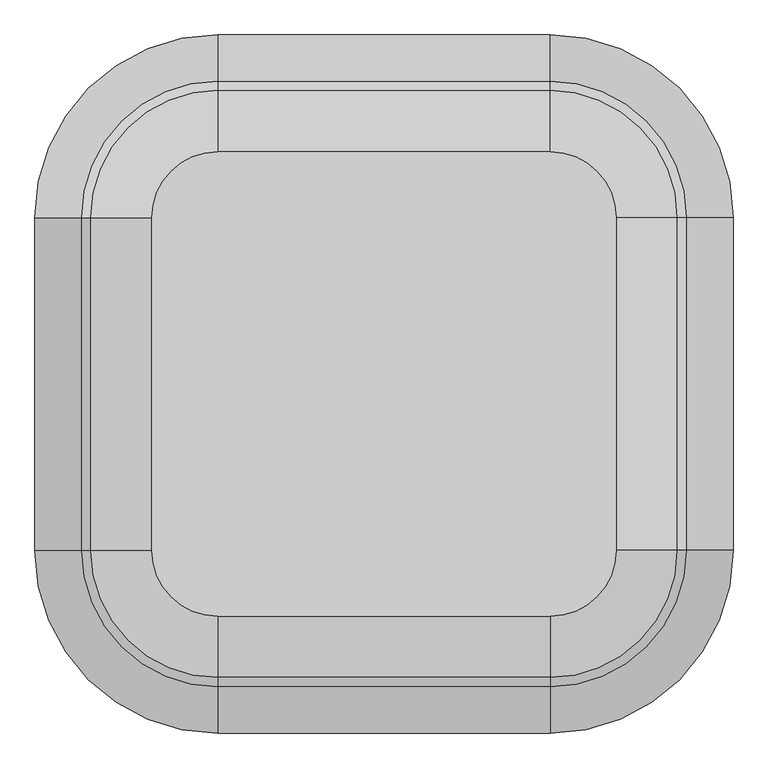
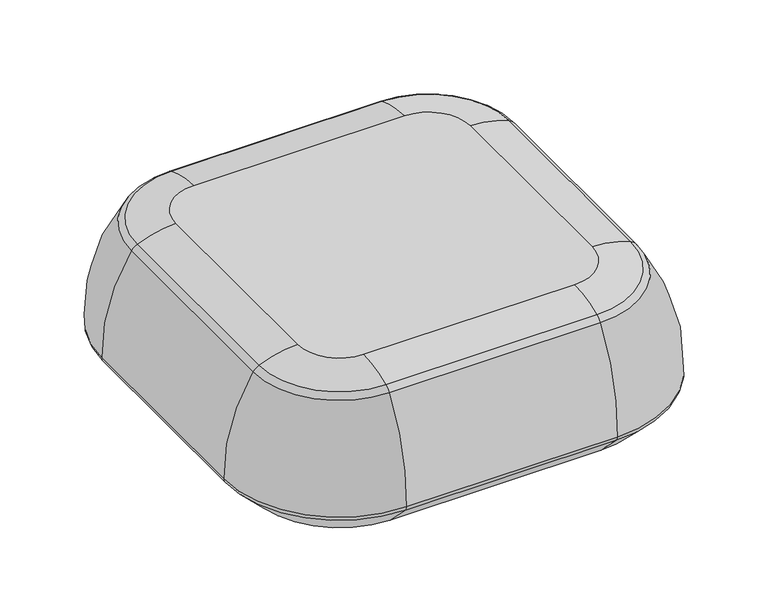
"""IFC4 building model written with IfcOpenShell, lengths in millimetres: furniture geometry, Pouf_Bensen_IlePouf_ILE003 : Pouf_Bensen_IlePouf_ILE003."""

from ifc_helpers import new_model, si_unit, point, frame, origin, place, context, project, spatial, polyline, circle_curve, ellipse_curve, trimmed, source, transform, mapped, element, save
from ifc_brep_helpers import plane_surface, cylinder_surface, revolved_surface, advanced_brep


def furniture_e9a74ccd(model_context):
    return source(origin(), model_context, "Body", "AdvancedBrep", [
        advanced_brep(
        [(-300.5148586, 419.2728272, 420.0), (-419.2660859, 300.5215999, 420.0), (-419.2660859, -300.5215999, 420.0), (-300.5148586, -419.2728272, 420.0), (300.5148586, -419.2728272, 420.0), (419.2660859, -300.5215999, 420.0), (419.2660859, 300.5215999, 420.0), (300.5148587, 419.2728272, 420.0), (-549.1319828, 300.5215999, 0.0), (-300.5148586, 549.138724, 0.0), (300.5148586, 549.138724, 0.0), (549.1319828, 300.5215999, 0.0), (549.1319828, -300.5215999, 0.0), (300.5148586, -549.138724, 0.0), (-300.5148586, -549.138724, 0.0), (-549.1319828, -300.5215999, 0.0), (-624.6680294, 300.5215999, 75.5360466), (-300.5148586, 624.6747707, 75.5360466), (-630.5148586, 300.5215999, 89.0138906), (-300.5148586, 630.5215999, 89.0138906), (-546.881553, 300.5215999, 381.8574548), (-300.5148586, 546.8882943, 381.8574548), (-530.1443543, 300.5215999, 396.0506005), (-300.5148586, 530.1510956, 396.0506005), (-624.6680294, -300.5215999, 75.5360466), (-630.5148586, -300.5215999, 89.0138906), (-546.881553, -300.5215999, 381.8574548), (-530.1443543, -300.5215999, 396.0506005), (-300.5148586, -624.6747707, 75.5360466), (-300.5148586, -630.5215999, 89.0138906), (-300.5148586, -546.8882943, 381.8574548), (-300.5148586, -530.1510956, 396.0506005), (300.5148586, -624.6747707, 75.5360466), (300.5148586, -630.5215999, 89.0138906), (300.5148586, -546.8882943, 381.8574548), (300.5148586, -530.1510956, 396.0506005), (624.6680294, -300.5215999, 75.5360466), (630.5148586, -300.5215999, 89.0138906), (546.881553, -300.5215999, 381.8574548), (530.1443543, -300.5215999, 396.0506005), (624.6680294, 300.5215999, 75.5360466), (630.5148586, 300.5215999, 89.0138906), (546.881553, 300.5215999, 381.8574548), (530.1443543, 300.5215999, 396.0506005), (300.5148586, 624.6747707, 75.5360466), (300.5148586, 630.5215999, 89.0138906), (300.5148586, 546.8882943, 381.8574548), (300.5148586, 530.1510956, 396.0506005)],
        [
            (0, 1, circle_curve(frame((-300.5148586, 300.5215999, 420.0), z_axis=(0.0, 0.0, 1.0), x_axis=(0.0, 1.0, 0.0)), 118.7512273)),
            (1, 2),
            (2, 3, circle_curve(frame((-300.5148586, -300.5215999, 420.0), z_axis=(0.0, 0.0, 1.0), x_axis=(-1.0, 0.0, 0.0)), 118.7512273)),
            (3, 4),
            (4, 5, circle_curve(frame((300.5148586, -300.5215999, 420.0), z_axis=(0.0, 0.0, 1.0), x_axis=(0.0, -1.0, 0.0)), 118.7512273)),
            (5, 6),
            (6, 7, circle_curve(frame((300.5148586, 300.5215999, 420.0), z_axis=(0.0, 0.0, 1.0), x_axis=(1.0, 0.0, 0.0)), 118.7512273)),
            (7, 0),
            (8, 9, circle_curve(frame((-300.5148586, 300.5215999, 0.0), z_axis=(0.0, 0.0, -1.0), x_axis=(0.0, 1.0, 0.0)), 248.6171241)),
            (9, 10),
            (10, 11, circle_curve(frame((300.5148586, 300.5215999, 0.0), z_axis=(0.0, 0.0, -1.0), x_axis=(1.0, 0.0, 0.0)), 248.6171241)),
            (11, 12),
            (12, 13, circle_curve(frame((300.5148586, -300.5215999, 0.0), z_axis=(0.0, 0.0, -1.0), x_axis=(0.0, -1.0, 0.0)), 248.6171241)),
            (13, 14),
            (14, 15, circle_curve(frame((-300.5148586, -300.5215999, 0.0), z_axis=(0.0, 0.0, -1.0), x_axis=(-1.0, 0.0, 0.0)), 248.6171241)),
            (15, 8),
            (16, 17, circle_curve(frame((-300.5148586, 300.5215999, 75.5360466), z_axis=(0.0, 0.0, -1.0), x_axis=(0.0, 1.0, 0.0)), 324.1531708)),
            (17, 9),
            (8, 16),
            (16, 18, circle_curve(frame((-610.5258938, 300.5215999, 89.6781823), z_axis=(0.0, 1.0, 0.0), x_axis=(1.0, 0.0, 0.0)), 20.0)),
            (18, 19, circle_curve(frame((-300.5148586, 300.5215999, 89.0138906), z_axis=(0.0, 0.0, -1.0), x_axis=(0.0, 1.0, 0.0)), 330.0)),
            (19, 17, circle_curve(frame((-300.5148586, 610.532635, 89.6781823), z_axis=(-1.0, 0.0, 0.0), x_axis=(0.0, -1.0, 0.0)), 20.0)),
            (18, 20, circle_curve(frame((-133.8001713, 300.5215999, 105.5211689), z_axis=(0.0, 1.0, 0.0), x_axis=(1.0, 0.0, 0.0)), 496.9889042)),
            (20, 21, circle_curve(frame((-300.5148586, 300.5215999, 381.8574548), z_axis=(0.0, 0.0, -1.0), x_axis=(0.0, 1.0, 0.0)), 246.3666944)),
            (21, 19, circle_curve(frame((-300.5148586, 133.8069126, 105.5211689), z_axis=(-1.0, 0.0, 0.0), x_axis=(0.0, -1.0, 0.0)), 496.9889042)),
            (20, 22, circle_curve(frame((-513.6348243, 300.5215999, 359.6166134), z_axis=(0.0, 1.0, 0.0), x_axis=(1.0, 0.0, 0.0)), 40.0)),
            (22, 23, circle_curve(frame((-300.5148586, 300.5215999, 396.0506005), z_axis=(0.0, 0.0, -1.0), x_axis=(0.0, 1.0, 0.0)), 229.6294956)),
            (23, 21, circle_curve(frame((-300.5148586, 513.6415656, 359.6166134), z_axis=(-1.0, 0.0, 0.0), x_axis=(0.0, -1.0, 0.0)), 40.0)),
            (22, 1, circle_curve(frame((-419.2660859, 300.5215999, 151.3593575), z_axis=(0.0, 1.0, 0.0), x_axis=(1.0, 0.0, 0.0)), 268.6406425)),
            (0, 23, circle_curve(frame((-300.5148586, 419.2728272, 151.3593575), z_axis=(-1.0, 0.0, 0.0), x_axis=(0.0, -1.0, 0.0)), 268.6406425)),
            (15, 24),
            (24, 16),
            (24, 25, circle_curve(frame((-610.5258938, -300.5215999, 89.6781823), z_axis=(0.0, 1.0, 0.0), x_axis=(1.0, 0.0, 0.0)), 20.0)),
            (25, 18),
            (25, 26, circle_curve(frame((-133.8001713, -300.5215999, 105.5211689), z_axis=(0.0, 1.0, 0.0), x_axis=(1.0, 0.0, 0.0)), 496.9889042)),
            (26, 20),
            (26, 27, circle_curve(frame((-513.6348243, -300.5215999, 359.6166134), z_axis=(0.0, 1.0, 0.0), x_axis=(1.0, 0.0, 0.0)), 40.0)),
            (27, 22),
            (27, 2, circle_curve(frame((-419.2660859, -300.5215999, 151.3593575), z_axis=(0.0, 1.0, 0.0), x_axis=(1.0, 0.0, 0.0)), 268.6406425)),
            (14, 28),
            (28, 24, circle_curve(frame((-300.5148586, -300.5215999, 75.5360466), z_axis=(0.0, 0.0, -1.0), x_axis=(-1.0, 0.0, 0.0)), 324.1531708)),
            (28, 29, circle_curve(frame((-300.5148586, -610.532635, 89.6781823), z_axis=(-1.0, 0.0, 0.0), x_axis=(0.0, 1.0, 0.0)), 20.0)),
            (29, 25, circle_curve(frame((-300.5148586, -300.5215999, 89.0138906), z_axis=(0.0, 0.0, -1.0), x_axis=(-1.0, 0.0, 0.0)), 330.0)),
            (29, 30, circle_curve(frame((-300.5148586, -133.8069126, 105.5211689), z_axis=(-1.0, 0.0, 0.0), x_axis=(0.0, 1.0, 0.0)), 496.9889042)),
            (30, 26, circle_curve(frame((-300.5148586, -300.5215999, 381.8574548), z_axis=(0.0, 0.0, -1.0), x_axis=(-1.0, 0.0, 0.0)), 246.3666944)),
            (30, 31, circle_curve(frame((-300.5148586, -513.6415656, 359.6166134), z_axis=(-1.0, 0.0, 0.0), x_axis=(0.0, 1.0, 0.0)), 40.0)),
            (31, 27, circle_curve(frame((-300.5148586, -300.5215999, 396.0506005), z_axis=(0.0, 0.0, -1.0), x_axis=(-1.0, 0.0, 0.0)), 229.6294956)),
            (31, 3, circle_curve(frame((-300.5148586, -419.2728272, 151.3593575), z_axis=(-1.0, 0.0, 0.0), x_axis=(0.0, 1.0, 0.0)), 268.6406425)),
            (13, 32),
            (32, 28),
            (32, 33, circle_curve(frame((300.5148586, -610.532635, 89.6781823), z_axis=(-1.0, 0.0, 0.0), x_axis=(0.0, 1.0, 0.0)), 20.0)),
            (33, 29),
            (33, 34, circle_curve(frame((300.5148586, -133.8069126, 105.5211689), z_axis=(-1.0, 0.0, 0.0), x_axis=(0.0, 1.0, 0.0)), 496.9889042)),
            (34, 30),
            (34, 35, circle_curve(frame((300.5148586, -513.6415656, 359.6166134), z_axis=(-1.0, 0.0, 0.0), x_axis=(0.0, 1.0, 0.0)), 40.0)),
            (35, 31),
            (35, 4, circle_curve(frame((300.5148586, -419.2728272, 151.3593575), z_axis=(-1.0, 0.0, 0.0), x_axis=(0.0, 1.0, 0.0)), 268.6406425)),
            (12, 36),
            (36, 32, circle_curve(frame((300.5148586, -300.5215999, 75.5360466), z_axis=(0.0, 0.0, -1.0), x_axis=(0.0, -1.0, 0.0)), 324.1531708)),
            (36, 37, circle_curve(frame((610.5258938, -300.5215999, 89.6781823), z_axis=(0.0, -1.0, 0.0), x_axis=(-1.0, 0.0, 0.0)), 20.0)),
            (37, 33, circle_curve(frame((300.5148586, -300.5215999, 89.0138906), z_axis=(0.0, 0.0, -1.0), x_axis=(0.0, -1.0, 0.0)), 330.0)),
            (37, 38, circle_curve(frame((133.8001713, -300.5215999, 105.5211689), z_axis=(0.0, -1.0, 0.0), x_axis=(-1.0, 0.0, 0.0)), 496.9889042)),
            (38, 34, circle_curve(frame((300.5148586, -300.5215999, 381.8574548), z_axis=(0.0, 0.0, -1.0), x_axis=(0.0, -1.0, 0.0)), 246.3666944)),
            (38, 39, circle_curve(frame((513.6348243, -300.5215999, 359.6166134), z_axis=(0.0, -1.0, 0.0), x_axis=(-1.0, 0.0, 0.0)), 40.0)),
            (39, 35, circle_curve(frame((300.5148586, -300.5215999, 396.0506005), z_axis=(0.0, 0.0, -1.0), x_axis=(0.0, -1.0, 0.0)), 229.6294956)),
            (39, 5, circle_curve(frame((419.2660859, -300.5215999, 151.3593575), z_axis=(0.0, -1.0, 0.0), x_axis=(-1.0, 0.0, 0.0)), 268.6406425)),
            (11, 40),
            (40, 36),
            (40, 41, circle_curve(frame((610.5258938, 300.5215999, 89.6781823), z_axis=(0.0, -1.0, 0.0), x_axis=(-1.0, 0.0, 0.0)), 20.0)),
            (41, 37),
            (41, 42, circle_curve(frame((133.8001713, 300.5215999, 105.5211689), z_axis=(0.0, -1.0, 0.0), x_axis=(-1.0, 0.0, 0.0)), 496.9889042)),
            (42, 38),
            (42, 43, circle_curve(frame((513.6348243, 300.5215999, 359.6166134), z_axis=(0.0, -1.0, 0.0), x_axis=(-1.0, 0.0, 0.0)), 40.0)),
            (43, 39),
            (43, 6, circle_curve(frame((419.2660859, 300.5215999, 151.3593575), z_axis=(0.0, -1.0, 0.0), x_axis=(-1.0, 0.0, 0.0)), 268.6406425)),
            (10, 44),
            (44, 40, circle_curve(frame((300.5148586, 300.5215999, 75.5360466), z_axis=(0.0, 0.0, -1.0), x_axis=(1.0, 0.0, 0.0)), 324.1531708)),
            (44, 45, circle_curve(frame((300.5148586, 610.532635, 89.6781823), z_axis=(1.0, 0.0, 0.0), x_axis=(0.0, -1.0, 0.0)), 20.0)),
            (45, 41, circle_curve(frame((300.5148586, 300.5215999, 89.0138906), z_axis=(0.0, 0.0, -1.0), x_axis=(1.0, 0.0, 0.0)), 330.0)),
            (45, 46, circle_curve(frame((300.5148586, 133.8069126, 105.5211689), z_axis=(1.0, 0.0, 0.0), x_axis=(0.0, -1.0, 0.0)), 496.9889042)),
            (46, 42, circle_curve(frame((300.5148586, 300.5215999, 381.8574548), z_axis=(0.0, 0.0, -1.0), x_axis=(1.0, 0.0, 0.0)), 246.3666944)),
            (46, 47, circle_curve(frame((300.5148586, 513.6415656, 359.6166134), z_axis=(1.0, 0.0, 0.0), x_axis=(0.0, -1.0, 0.0)), 40.0)),
            (47, 43, circle_curve(frame((300.5148586, 300.5215999, 396.0506005), z_axis=(0.0, 0.0, -1.0), x_axis=(1.0, 0.0, 0.0)), 229.6294956)),
            (47, 7, circle_curve(frame((300.5148586, 419.2728272, 151.3593575), z_axis=(1.0, 0.0, 0.0), x_axis=(0.0, -1.0, 0.0)), 268.6406425)),
            (17, 44),
            (19, 45),
            (21, 46),
            (23, 47),
        ],
        [
            plane_surface(frame((-93.185451, 419.2728272, 420.0), z_axis=(0.0, 0.0, 1.0), x_axis=(-1.0, 0.0, 0.0))),
            plane_surface(frame((-93.185451, 419.2728272, 0.0), z_axis=(0.0, 0.0, -1.0), x_axis=(1.0, 0.0, 0.0))),
            revolved_surface(polyline([(-300.5148586, 549.138724, 0.0), (-300.5148586, 624.6747707, 75.5360466)]), (-300.5148586, 300.5215999, 0.0), (0.0, 0.0, 1.0)),
            revolved_surface(trimmed(ellipse_curve(frame((-300.5148586, 610.532635, 89.6781823), z_axis=(1.0, 0.0, 0.0), x_axis=(0.0, -1.0, 0.0)), 20.0, 20.0), [point((-300.5148586, 624.6747707, 75.5360466))], [point((-300.5148586, 630.5215999, 89.0138906))], True, "CARTESIAN"), (-300.5148586, 300.5215999, 0.0), (0.0, 0.0, 1.0)),
            revolved_surface(trimmed(ellipse_curve(frame((-300.5148586, 133.8069126, 105.5211689), z_axis=(1.0, 0.0, 0.0), x_axis=(0.0, -1.0, 0.0)), 496.9889042, 496.9889042), [point((-300.5148586, 630.5215999, 89.0138906))], [point((-300.5148586, 546.8882943, 381.8574548))], True, "CARTESIAN"), (-300.5148586, 300.5215999, 0.0), (0.0, 0.0, 1.0)),
            revolved_surface(trimmed(ellipse_curve(frame((-300.5148586, 513.6415656, 359.6166134), z_axis=(1.0, 0.0, 0.0), x_axis=(0.0, -1.0, 0.0)), 40.0, 40.0), [point((-300.5148586, 546.8882943, 381.8574548))], [point((-300.5148586, 530.1510956, 396.0506005))], True, "CARTESIAN"), (-300.5148586, 300.5215999, 0.0), (0.0, 0.0, 1.0)),
            revolved_surface(trimmed(ellipse_curve(frame((-300.5148586, 419.2728272, 151.3593575), z_axis=(1.0, 0.0, 0.0), x_axis=(0.0, -1.0, 0.0)), 268.6406425, 268.6406425), [point((-300.5148586, 530.1510956, 396.0506005))], [point((-300.5148586, 419.2728272, 420.0))], True, "CARTESIAN"), (-300.5148586, 300.5215999, 0.0), (0.0, 0.0, 1.0)),
            plane_surface(frame((-549.1319828, 300.5215999, 0.0), z_axis=(-0.7071067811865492, 0.0, -0.7071067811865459), x_axis=(0.0, -1.0, 0.0))),
            cylinder_surface(frame((-610.5258938, 300.5215999, 89.6781823), z_axis=(0.0, 1.0, 0.0), x_axis=(1.0, 0.0, 0.0)), 20.0),
            cylinder_surface(frame((-133.8001713, 300.5215999, 105.5211689), z_axis=(0.0, 1.0, 0.0), x_axis=(1.0, 0.0, 0.0)), 496.9889042),
            cylinder_surface(frame((-513.6348243, 300.5215999, 359.6166134), z_axis=(0.0, 1.0, 0.0), x_axis=(1.0, 0.0, 0.0)), 40.0),
            cylinder_surface(frame((-419.2660859, 300.5215999, 151.3593575), z_axis=(0.0, 1.0, 0.0), x_axis=(1.0, 0.0, 0.0)), 268.6406425),
            revolved_surface(polyline([(-549.1319828, -300.5215999, 0.0), (-624.6680294, -300.5215999, 75.5360466)]), (-300.5148586, -300.5215999, 0.0), (0.0, 0.0, 1.0)),
            revolved_surface(trimmed(ellipse_curve(frame((-610.5258938, -300.5215999, 89.6781823), z_axis=(0.0, 1.0, 0.0), x_axis=(1.0, 0.0, 0.0)), 20.0, 20.0), [point((-624.6680294, -300.5215999, 75.5360466))], [point((-630.5148586, -300.5215999, 89.0138906))], True, "CARTESIAN"), (-300.5148586, -300.5215999, 0.0), (0.0, 0.0, 1.0)),
            revolved_surface(trimmed(ellipse_curve(frame((-133.8001713, -300.5215999, 105.5211689), z_axis=(0.0, 1.0, 0.0), x_axis=(1.0, 0.0, 0.0)), 496.9889042, 496.9889042), [point((-630.5148586, -300.5215999, 89.0138906))], [point((-546.881553, -300.5215999, 381.8574548))], True, "CARTESIAN"), (-300.5148586, -300.5215999, 0.0), (0.0, 0.0, 1.0)),
            revolved_surface(trimmed(ellipse_curve(frame((-513.6348243, -300.5215999, 359.6166134), z_axis=(0.0, 1.0, 0.0), x_axis=(1.0, 0.0, 0.0)), 40.0, 40.0), [point((-546.881553, -300.5215999, 381.8574548))], [point((-530.1443543, -300.5215999, 396.0506005))], True, "CARTESIAN"), (-300.5148586, -300.5215999, 0.0), (0.0, 0.0, 1.0)),
            revolved_surface(trimmed(ellipse_curve(frame((-419.2660859, -300.5215999, 151.3593575), z_axis=(0.0, 1.0, 0.0), x_axis=(1.0, 0.0, 0.0)), 268.6406425, 268.6406425), [point((-530.1443543, -300.5215999, 396.0506005))], [point((-419.2660859, -300.5215999, 420.0))], True, "CARTESIAN"), (-300.5148586, -300.5215999, 0.0), (0.0, 0.0, 1.0)),
            plane_surface(frame((-300.5148586, -549.138724, 0.0), z_axis=(0.0, -0.7071067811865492, -0.7071067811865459), x_axis=(1.0, 0.0, 0.0))),
            cylinder_surface(frame((-300.5148586, -610.532635, 89.6781823), z_axis=(-1.0, 0.0, 0.0), x_axis=(0.0, 1.0, 0.0)), 20.0),
            cylinder_surface(frame((-300.5148586, -133.8069126, 105.5211689), z_axis=(-1.0, 0.0, 0.0), x_axis=(0.0, 1.0, 0.0)), 496.9889042),
            cylinder_surface(frame((-300.5148586, -513.6415656, 359.6166134), z_axis=(-1.0, 0.0, 0.0), x_axis=(0.0, 1.0, 0.0)), 40.0),
            cylinder_surface(frame((-300.5148586, -419.2728272, 151.3593575), z_axis=(-1.0, 0.0, 0.0), x_axis=(0.0, 1.0, 0.0)), 268.6406425),
            revolved_surface(polyline([(300.5148586, -549.138724, 0.0), (300.5148586, -624.6747707, 75.5360466)]), (300.5148586, -300.5215999, 0.0), (0.0, 0.0, 1.0)),
            revolved_surface(trimmed(ellipse_curve(frame((300.5148586, -610.532635, 89.6781823), z_axis=(-1.0, 0.0, 0.0), x_axis=(0.0, 1.0, 0.0)), 20.0, 20.0), [point((300.5148586, -624.6747707, 75.5360466))], [point((300.5148586, -630.5215999, 89.0138906))], True, "CARTESIAN"), (300.5148586, -300.5215999, 0.0), (0.0, 0.0, 1.0)),
            revolved_surface(trimmed(ellipse_curve(frame((300.5148586, -133.8069126, 105.5211689), z_axis=(-1.0, 0.0, 0.0), x_axis=(0.0, 1.0, 0.0)), 496.9889042, 496.9889042), [point((300.5148586, -630.5215999, 89.0138906))], [point((300.5148586, -546.8882943, 381.8574548))], True, "CARTESIAN"), (300.5148586, -300.5215999, 0.0), (0.0, 0.0, 1.0)),
            revolved_surface(trimmed(ellipse_curve(frame((300.5148586, -513.6415656, 359.6166134), z_axis=(-1.0, 0.0, 0.0), x_axis=(0.0, 1.0, 0.0)), 40.0, 40.0), [point((300.5148586, -546.8882943, 381.8574548))], [point((300.5148586, -530.1510956, 396.0506005))], True, "CARTESIAN"), (300.5148586, -300.5215999, 0.0), (0.0, 0.0, 1.0)),
            revolved_surface(trimmed(ellipse_curve(frame((300.5148586, -419.2728272, 151.3593575), z_axis=(-1.0, 0.0, 0.0), x_axis=(0.0, 1.0, 0.0)), 268.6406425, 268.6406425), [point((300.5148586, -530.1510956, 396.0506005))], [point((300.5148586, -419.2728272, 420.0))], True, "CARTESIAN"), (300.5148586, -300.5215999, 0.0), (0.0, 0.0, 1.0)),
            plane_surface(frame((549.1319828, -300.5215999, 0.0), z_axis=(0.7071067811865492, 0.0, -0.7071067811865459), x_axis=(0.0, 1.0, 0.0))),
            cylinder_surface(frame((610.5258938, -300.5215999, 89.6781823), z_axis=(0.0, -1.0, 0.0), x_axis=(-1.0, 0.0, 0.0)), 20.0),
            cylinder_surface(frame((133.8001713, -300.5215999, 105.5211689), z_axis=(0.0, -1.0, 0.0), x_axis=(-1.0, 0.0, 0.0)), 496.9889042),
            cylinder_surface(frame((513.6348243, -300.5215999, 359.6166134), z_axis=(0.0, -1.0, 0.0), x_axis=(-1.0, 0.0, 0.0)), 40.0),
            cylinder_surface(frame((419.2660859, -300.5215999, 151.3593575), z_axis=(0.0, -1.0, 0.0), x_axis=(-1.0, 0.0, 0.0)), 268.6406425),
            revolved_surface(polyline([(549.1319828, 300.5215999, 0.0), (624.6680294, 300.5215999, 75.5360466)]), (300.5148586, 300.5215999, 0.0), (0.0, 0.0, 1.0)),
            revolved_surface(trimmed(ellipse_curve(frame((610.5258938, 300.5215999, 89.6781823), z_axis=(0.0, -1.0, 0.0), x_axis=(-1.0, 0.0, 0.0)), 20.0, 20.0), [point((624.6680294, 300.5215999, 75.5360466))], [point((630.5148586, 300.5215999, 89.0138906))], True, "CARTESIAN"), (300.5148586, 300.5215999, 0.0), (0.0, 0.0, 1.0)),
            revolved_surface(trimmed(ellipse_curve(frame((133.8001713, 300.5215999, 105.5211689), z_axis=(0.0, -1.0, 0.0), x_axis=(-1.0, 0.0, 0.0)), 496.9889042, 496.9889042), [point((630.5148586, 300.5215999, 89.0138906))], [point((546.881553, 300.5215999, 381.8574548))], True, "CARTESIAN"), (300.5148586, 300.5215999, 0.0), (0.0, 0.0, 1.0)),
            revolved_surface(trimmed(ellipse_curve(frame((513.6348243, 300.5215999, 359.6166134), z_axis=(0.0, -1.0, 0.0), x_axis=(-1.0, 0.0, 0.0)), 40.0, 40.0), [point((546.881553, 300.5215999, 381.8574548))], [point((530.1443543, 300.5215999, 396.0506005))], True, "CARTESIAN"), (300.5148586, 300.5215999, 0.0), (0.0, 0.0, 1.0)),
            revolved_surface(trimmed(ellipse_curve(frame((419.2660859, 300.5215999, 151.3593575), z_axis=(0.0, -1.0, 0.0), x_axis=(-1.0, 0.0, 0.0)), 268.6406425, 268.6406425), [point((530.1443543, 300.5215999, 396.0506005))], [point((419.2660859, 300.5215999, 420.0))], True, "CARTESIAN"), (300.5148586, 300.5215999, 0.0), (0.0, 0.0, 1.0)),
            plane_surface(frame((300.5148586, 549.138724, 0.0), z_axis=(0.0, 0.7071067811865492, -0.7071067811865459), x_axis=(-1.0, 0.0, 0.0))),
            cylinder_surface(frame((300.5148586, 610.532635, 89.6781823), z_axis=(1.0, 0.0, 0.0), x_axis=(0.0, -1.0, 0.0)), 20.0),
            cylinder_surface(frame((300.5148586, 133.8069126, 105.5211689), z_axis=(1.0, 0.0, 0.0), x_axis=(0.0, -1.0, 0.0)), 496.9889042),
            cylinder_surface(frame((300.5148586, 513.6415656, 359.6166134), z_axis=(1.0, 0.0, 0.0), x_axis=(0.0, -1.0, 0.0)), 40.0),
            cylinder_surface(frame((300.5148586, 419.2728272, 151.3593575), z_axis=(1.0, 0.0, 0.0), x_axis=(0.0, -1.0, 0.0)), 268.6406425),
        ],
        [
            (0, [[1, 2, 3, 4, 5, 6, 7, 8]]),
            (1, [[9, 10, 11, 12, 13, 14, 15, 16]]),
            (2, [[17, 18, -9, 19]]),
            (3, [[-17, 20, 21, 22]]),
            (4, [[-21, 23, 24, 25]]),
            (5, [[-24, 26, 27, 28]]),
            (6, [[-27, 29, -1, 30]]),
            (7, [[-19, -16, 31, 32]]),
            (8, [[-20, -32, 33, 34]]),
            (9, [[-23, -34, 35, 36]]),
            (10, [[-26, -36, 37, 38]]),
            (11, [[-29, -38, 39, -2]]),
            (12, [[-31, -15, 40, 41]]),
            (13, [[-33, -41, 42, 43]]),
            (14, [[-35, -43, 44, 45]]),
            (15, [[-37, -45, 46, 47]]),
            (16, [[-39, -47, 48, -3]]),
            (17, [[-40, -14, 49, 50]]),
            (18, [[-42, -50, 51, 52]]),
            (19, [[-44, -52, 53, 54]]),
            (20, [[-46, -54, 55, 56]]),
            (21, [[-48, -56, 57, -4]]),
            (22, [[-49, -13, 58, 59]]),
            (23, [[-51, -59, 60, 61]]),
            (24, [[-53, -61, 62, 63]]),
            (25, [[-55, -63, 64, 65]]),
            (26, [[-57, -65, 66, -5]]),
            (27, [[-58, -12, 67, 68]]),
            (28, [[-60, -68, 69, 70]]),
            (29, [[-62, -70, 71, 72]]),
            (30, [[-64, -72, 73, 74]]),
            (31, [[-66, -74, 75, -6]]),
            (32, [[-67, -11, 76, 77]]),
            (33, [[-69, -77, 78, 79]]),
            (34, [[-71, -79, 80, 81]]),
            (35, [[-73, -81, 82, 83]]),
            (36, [[-75, -83, 84, -7]]),
            (37, [[-18, 85, -76, -10]]),
            (38, [[-22, 86, -78, -85]]),
            (39, [[-25, 87, -80, -86]]),
            (40, [[-28, 88, -82, -87]]),
            (41, [[-30, -8, -84, -88]]),
        ],
    ),
    ])


if __name__ == "__main__":
    model = new_model("IFC4")
    model_context = context("Model", 3, world=origin())
    ifc_project = project(units=[si_unit("LENGTHUNIT", "METRE", prefix="MILLI")], contexts=[model_context])
    site = spatial("IfcSite", under=ifc_project)
    building = spatial("IfcBuilding", under=site)
    placement = place(None, origin())
    furniture_shape = furniture_e9a74ccd(model_context)
    element("IfcFurniture", 1, ObjectType="Pouf_Bensen_IlePouf_ILE003 : Pouf_Bensen_IlePouf_ILE003", at=placement, inside=building, context=model_context, shape_type="MappedRepresentation", body=[
        mapped(furniture_shape, transform((0.0, 0.0, 0.0), x_axis=(1.0, 0.0, 0.0), y_axis=(0.0, 1.0, 0.0), z_axis=(0.0, 0.0, 1.0))),
    ])
    save(model, "model.ifc")
